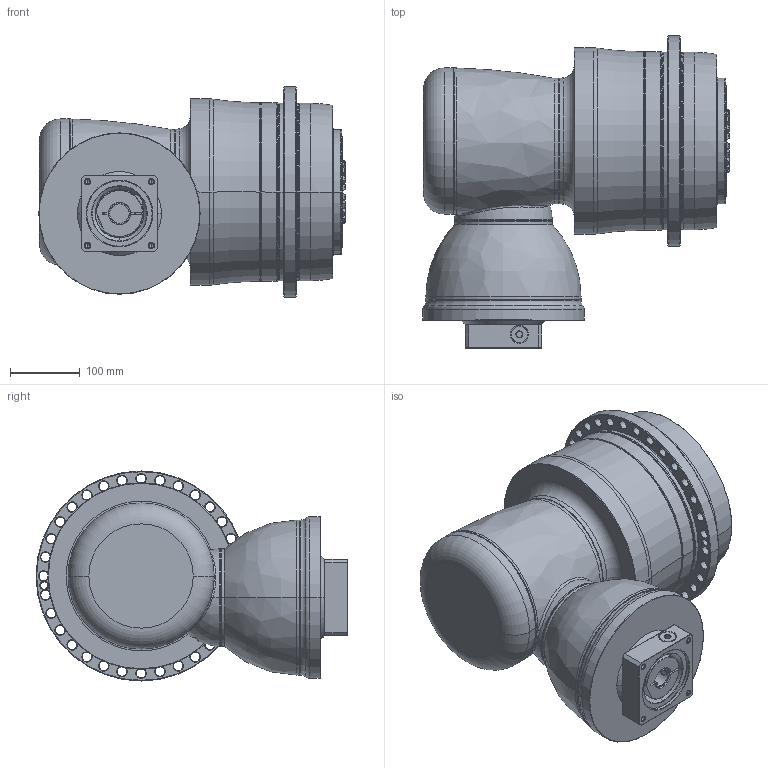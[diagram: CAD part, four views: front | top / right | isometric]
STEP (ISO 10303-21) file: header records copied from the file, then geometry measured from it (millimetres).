
FILE_DESCRIPTION((''),'2;1');
FILE_NAME('APCK255_3ST_28-P0409610201_ASM','2018-05-14T',('d01226'),(''),'PRO/ENGINEER BY PARAMETRIC TECHNOLOGY CORPORATION, 2008410','PRO/ENGINEER BY PARAMETRIC TECHNOLOGY CORPORATION, 2008410','');
FILE_SCHEMA(('CONFIG_CONTROL_DESIGN'));
Length unit declared in the file: millimetre
Products named in the file (13): P1008600002; P1832700001; P0278701003; P0359770103; P1211700001; P1315600001; P1007601001; P1318610501; P0409610201; P0503600010; P0129655001; 21711418017; APCK255_3ST_28-P0409610201_ASM
Assembly tree (12 placements, depth 2):
  APCK255_3ST_28-P0409610201_ASM
    P1008600002
    P1832700001
    P0278701003
    P0359770103
    P1211700001
    P1315600001
    P1007601001
    P1318610501
    P0409610201
    P0503600010
    P0129655001
    21711418017
Bounding box: 440.6 x 448.5 x 302 mm (x, y, z)
Volume: 22628233.4 mm3; surface area: 1350248.7 mm2
Topology: 13 solids, 25 shells, 803 faces, 1928 edges, 1175 vertices
Faces by surface type: cone 271, cylinder 242, plane 140, torus 121, bspline 27, sphere 2
Entity records: 27306 total; most frequent: CARTESIAN_POINT 8031, DIRECTION 4336, ORIENTED_EDGE 3778, EDGE_CURVE 1914, AXIS2_PLACEMENT_3D 1900, VERTEX_POINT 1175, CIRCLE 1087, EDGE_LOOP 923
